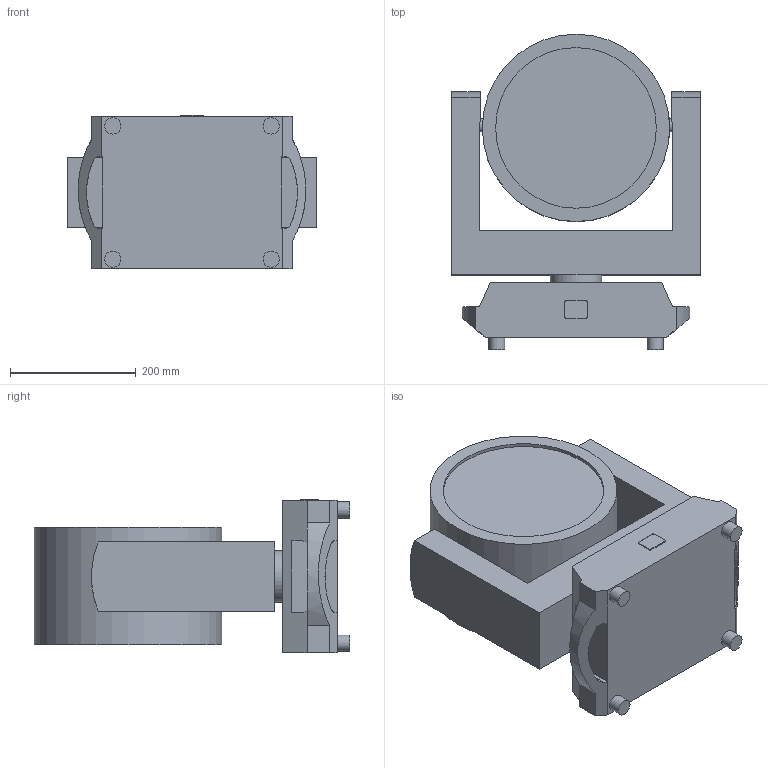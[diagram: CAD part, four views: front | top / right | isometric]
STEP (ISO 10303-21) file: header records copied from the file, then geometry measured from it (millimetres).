
FILE_DESCRIPTION(/* description */ (''),/* implementation_level */ '2;1');
FILE_NAME(/* name */ 'ROGUEOUTCAST3XWASH_0.step',/* time_stamp */ '2025-09-10T15:07:47-04:00',/* author */ (''),/* organization */ (''),/* preprocessor_version */ 'ST-DEVELOPER v20.1',/* originating_system */ 'Autodesk Translation Framework v14.10.0.0',/* authorisation */ '');
FILE_SCHEMA (('AUTOMOTIVE_DESIGN { 1 0 10303 214 3 1 1 }'));
Length unit declared in the file: millimetre
Products named in the file (4): ROIP-3720W-00_ASM; arm; head; base
Assembly tree (3 placements, depth 2):
  ROIP-3720W-00_ASM
    arm
    head
    base
Bounding box: 395.28 x 501.7 x 244.17 mm (x, y, z)
Volume: 24386171.3 mm3; surface area: 887854.9 mm2
Topology: 3 solids, 3 shells, 74 faces, 184 edges, 123 vertices
Faces by surface type: plane 47, cylinder 27
Full cylindrical faces by diameter (mm): 21 x3, 26 x4, 81.8 x2, 255.658 x1, 298 x1
Entity records: 2372 total; most frequent: CARTESIAN_POINT 422, DIRECTION 405, ORIENTED_EDGE 368, EDGE_CURVE 184, AXIS2_PLACEMENT_3D 142, VERTEX_POINT 123, LINE 121, VECTOR 121
